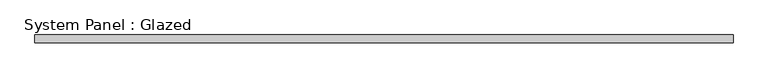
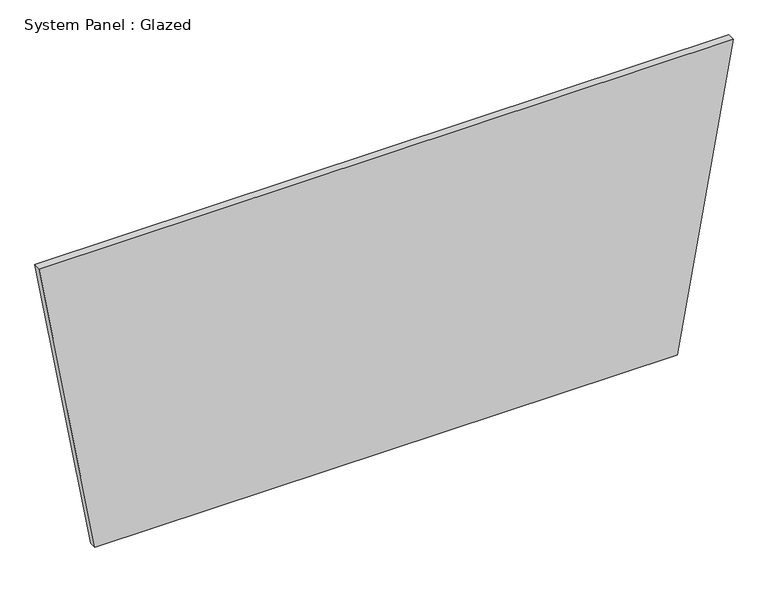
"""IFC4 building model written with IfcOpenShell, lengths in millimetres: plate geometry, System Panel : Glazed."""

from ifc_helpers import new_model, si_unit, frame, origin, place, context, project, spatial, polyline, outline, extrude, source, transform, mapped, element, save


def system_panel_glazed_ac83cff1(model_context):
    return source(origin(), model_context, "Body", "SweptSolid", [
        extrude(outline(polyline([(0.0, -972.9541711), (0.0, 972.9541711), (1050.440804, 1159.0626267), (1050.440804, -1159.0626267), (0.0, -972.9541711)])), frame((0.0, -44.45, 0.0), z_axis=(0.0, 1.0, 0.0), x_axis=(0.0, 0.0, 1.0)), (0.0, 0.0, 1.0), 25.4),
    ])


if __name__ == "__main__":
    model = new_model("IFC4")
    model_context = context("Model", 3, world=origin())
    ifc_project = project(units=[si_unit("LENGTHUNIT", "METRE", prefix="MILLI")], contexts=[model_context])
    site = spatial("IfcSite", under=ifc_project)
    building = spatial("IfcBuilding", under=site)
    placement = place(None, origin())
    system_panel_glazed_shape = system_panel_glazed_ac83cff1(model_context)
    element("IfcPlate", 1, ObjectType="System Panel : Glazed", at=placement, inside=building, context=model_context, shape_type="MappedRepresentation", body=[
        mapped(system_panel_glazed_shape, transform((0.0, 0.0, 0.0), x_axis=(1.0, 0.0, 0.0), y_axis=(0.0, 1.0, 0.0), z_axis=(0.0, 0.0, 1.0))),
    ])
    save(model, "model.ifc")
